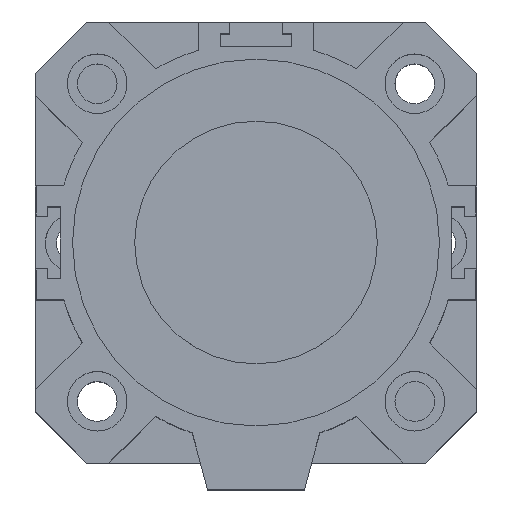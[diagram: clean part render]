
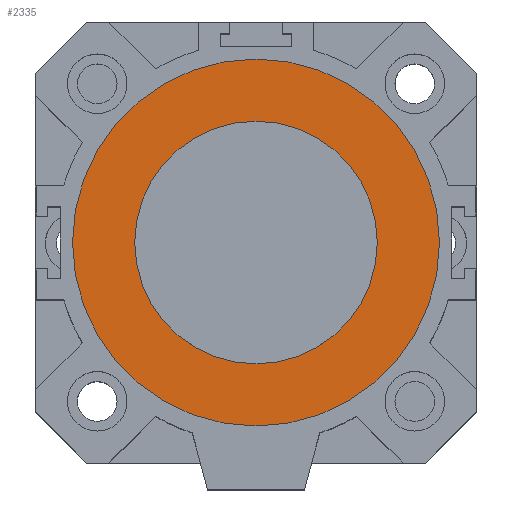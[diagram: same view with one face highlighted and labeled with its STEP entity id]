
A CAD part, top view. The second image highlights one B-rep face of the part: STEP entity #2335.
In plain terms, the highlighted planar face has unit normal (0, 0, 1).
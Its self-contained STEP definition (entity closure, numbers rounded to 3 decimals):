
#449=PLANE('',#2486);
#547=FACE_BOUND('',#766,.T.);
#548=FACE_BOUND('',#767,.T.);
#766=EDGE_LOOP('',(#1592));
#767=EDGE_LOOP('',(#1593));
#977=CIRCLE('',#2481,27.5);
#979=CIRCLE('',#2484,41.6);
#1065=VERTEX_POINT('',#3388);
#1067=VERTEX_POINT('',#3393);
#1287=EDGE_CURVE('',#1065,#1065,#977,.T.);
#1289=EDGE_CURVE('',#1067,#1067,#979,.T.);
#1592=ORIENTED_EDGE('',*,*,#1287,.F.);
#1593=ORIENTED_EDGE('',*,*,#1289,.F.);
#2335=ADVANCED_FACE('',(#547,#548),#449,.T.);
#2481=AXIS2_PLACEMENT_3D('',#3389,#2720,#2721);
#2484=AXIS2_PLACEMENT_3D('',#3394,#2726,#2727);
#2486=AXIS2_PLACEMENT_3D('',#3397,#2730,#2731);
#2720=DIRECTION('center_axis',(0.,0.,1.));
#2721=DIRECTION('ref_axis',(-1.,0.,0.));
#2726=DIRECTION('center_axis',(0.,0.,-1.));
#2727=DIRECTION('ref_axis',(-1.,0.,0.));
#2730=DIRECTION('center_axis',(0.,0.,1.));
#2731=DIRECTION('ref_axis',(1.,0.,0.));
#3388=CARTESIAN_POINT('',(27.5,0.,29.5));
#3389=CARTESIAN_POINT('Origin',(0.,0.,29.5));
#3393=CARTESIAN_POINT('',(41.6,0.,29.5));
#3394=CARTESIAN_POINT('Origin',(0.,0.,29.5));
#3397=CARTESIAN_POINT('Origin',(0.,0.,
29.5));
